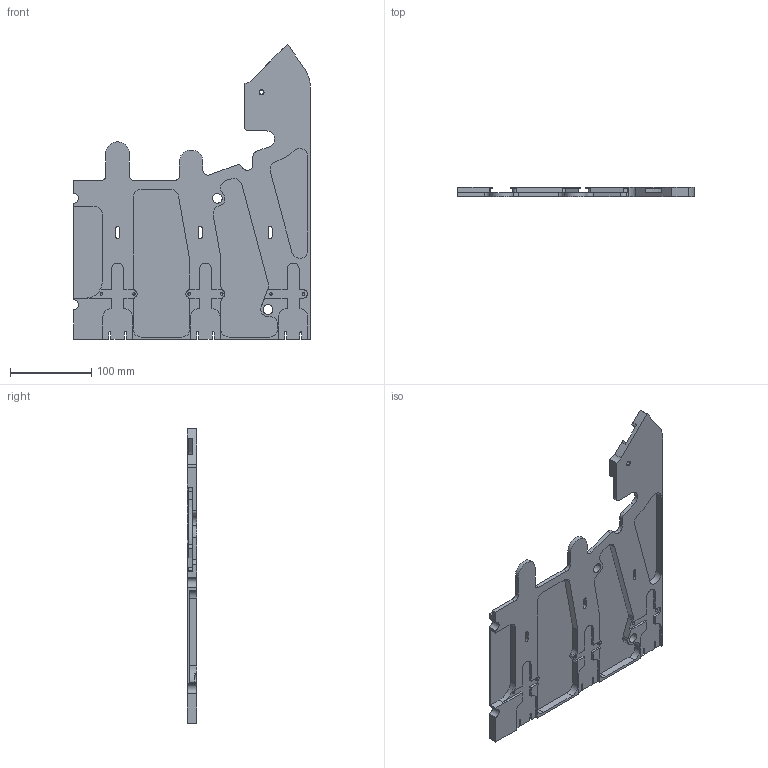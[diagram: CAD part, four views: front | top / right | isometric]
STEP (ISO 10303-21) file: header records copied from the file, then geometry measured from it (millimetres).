
FILE_DESCRIPTION(('STEP AP214'), '1');
FILE_NAME('P1.WSD5080.250.109.001 _ ﾍ瑜粱', '', ('UNSPECIFIED'), ('UNSPECIFIED'), 'C3D Converter', 'C3D Toolkit', '');
FILE_SCHEMA(('AUTOMOTIVE_DESIGN { 1 0 10303 214 3 1 1}'));
Length unit declared in the file: millimetre
Products named in the file (1): P1.WSD5080.250.109.001
Bounding box: 291 x 11.5 x 362.72 mm (x, y, z)
Volume: 356502.5 mm3; surface area: 186904.3 mm2
Topology: 1 solids, 1 shells, 267 faces, 778 edges, 516 vertices
Faces by surface type: plane 152, cylinder 106, cone 8, bspline 1
Full cylindrical faces by diameter (mm): 3.242 x6, 4.917 x1, 8 x2, 12 x2
Entity records: 8875 total; most frequent: CARTESIAN_POINT 1652, DIRECTION 1508, ORIENTED_EDGE 1506, EDGE_CURVE 753, LINE 528, VECTOR 528, VERTEX_POINT 510, AXIS2_PLACEMENT_3D 490
